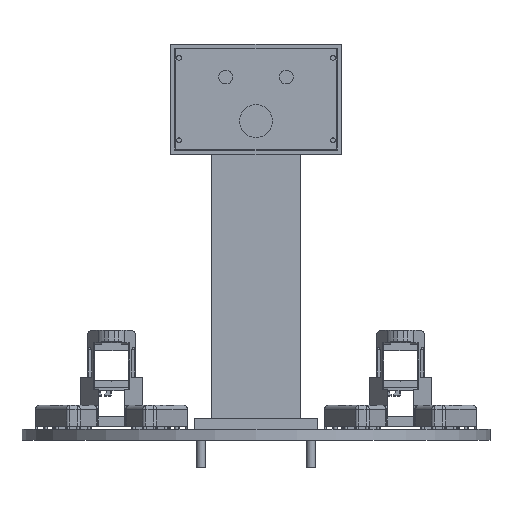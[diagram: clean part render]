
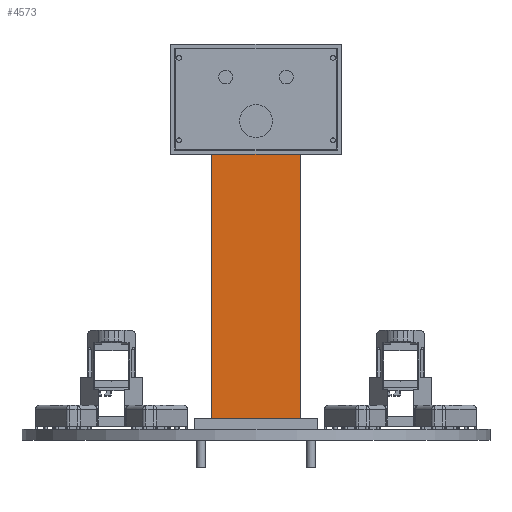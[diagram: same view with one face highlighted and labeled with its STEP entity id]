
A CAD part, front view. The second image highlights one B-rep face of the part: STEP entity #4573.
In plain terms, the highlighted planar face has unit normal (0, -1, 0).
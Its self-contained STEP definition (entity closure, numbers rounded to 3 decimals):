
#4333 = EDGE_CURVE('',#4334,#4336,#4338,.T.);
#4334 = VERTEX_POINT('',#4335);
#4335 = CARTESIAN_POINT('',(-32.,35.,86.));
#4336 = VERTEX_POINT('',#4337);
#4337 = CARTESIAN_POINT('',(-32.,35.,278.));
#4338 = SURFACE_CURVE('',#4339,(#4343,#4355),.PCURVE_S1.);
#4339 = LINE('',#4340,#4341);
#4340 = CARTESIAN_POINT('',(-32.,35.,86.));
#4341 = VECTOR('',#4342,1.);
#4342 = DIRECTION('',(0.,0.,1.));
#4343 = PCURVE('',#4344,#4349);
#4344 = PLANE('',#4345);
#4345 = AXIS2_PLACEMENT_3D('',#4346,#4347,#4348);
#4346 = CARTESIAN_POINT('',(-32.,35.,86.));
#4347 = DIRECTION('',(1.,0.,0.));
#4348 = DIRECTION('',(0.,0.,1.));
#4349 = DEFINITIONAL_REPRESENTATION('',(#4350),#4354);
#4350 = LINE('',#4351,#4352);
#4351 = CARTESIAN_POINT('',(0.,0.));
#4352 = VECTOR('',#4353,1.);
#4353 = DIRECTION('',(1.,0.));
#4354 = ( GEOMETRIC_REPRESENTATION_CONTEXT(2) 
PARAMETRIC_REPRESENTATION_CONTEXT() REPRESENTATION_CONTEXT('2D SPACE',''
  ) );
#4355 = PCURVE('',#4356,#4361);
#4356 = PLANE('',#4357);
#4357 = AXIS2_PLACEMENT_3D('',#4358,#4359,#4360);
#4358 = CARTESIAN_POINT('',(-32.,35.,86.));
#4359 = DIRECTION('',(0.,1.,0.));
#4360 = DIRECTION('',(0.,0.,1.));
#4361 = DEFINITIONAL_REPRESENTATION('',(#4362),#4366);
#4362 = LINE('',#4363,#4364);
#4363 = CARTESIAN_POINT('',(0.,0.));
#4364 = VECTOR('',#4365,1.);
#4365 = DIRECTION('',(1.,0.));
#4366 = ( GEOMETRIC_REPRESENTATION_CONTEXT(2) 
PARAMETRIC_REPRESENTATION_CONTEXT() REPRESENTATION_CONTEXT('2D SPACE',''
  ) );
#4384 = PLANE('',#4385);
#4385 = AXIS2_PLACEMENT_3D('',#4386,#4387,#4388);
#4386 = CARTESIAN_POINT('',(-32.,35.,86.));
#4387 = DIRECTION('',(0.,0.,1.));
#4388 = DIRECTION('',(1.,0.,0.));
#4438 = PLANE('',#4439);
#4439 = AXIS2_PLACEMENT_3D('',#4440,#4441,#4442);
#4440 = CARTESIAN_POINT('',(-32.,35.,278.));
#4441 = DIRECTION('',(0.,0.,1.));
#4442 = DIRECTION('',(1.,0.,0.));
#4573 = ADVANCED_FACE('',(#4574),#4356,.F.);
#4574 = FACE_BOUND('',#4575,.F.);
#4575 = EDGE_LOOP('',(#4576,#4599,#4600,#4623));
#4576 = ORIENTED_EDGE('',*,*,#4577,.F.);
#4577 = EDGE_CURVE('',#4334,#4578,#4580,.T.);
#4578 = VERTEX_POINT('',#4579);
#4579 = CARTESIAN_POINT('',(32.,35.,86.));
#4580 = SURFACE_CURVE('',#4581,(#4585,#4592),.PCURVE_S1.);
#4581 = LINE('',#4582,#4583);
#4582 = CARTESIAN_POINT('',(-32.,35.,86.));
#4583 = VECTOR('',#4584,1.);
#4584 = DIRECTION('',(1.,0.,0.));
#4585 = PCURVE('',#4356,#4586);
#4586 = DEFINITIONAL_REPRESENTATION('',(#4587),#4591);
#4587 = LINE('',#4588,#4589);
#4588 = CARTESIAN_POINT('',(0.,0.));
#4589 = VECTOR('',#4590,1.);
#4590 = DIRECTION('',(0.,1.));
#4591 = ( GEOMETRIC_REPRESENTATION_CONTEXT(2) 
PARAMETRIC_REPRESENTATION_CONTEXT() REPRESENTATION_CONTEXT('2D SPACE',''
  ) );
#4592 = PCURVE('',#4384,#4593);
#4593 = DEFINITIONAL_REPRESENTATION('',(#4594),#4598);
#4594 = LINE('',#4595,#4596);
#4595 = CARTESIAN_POINT('',(0.,0.));
#4596 = VECTOR('',#4597,1.);
#4597 = DIRECTION('',(1.,0.));
#4598 = ( GEOMETRIC_REPRESENTATION_CONTEXT(2) 
PARAMETRIC_REPRESENTATION_CONTEXT() REPRESENTATION_CONTEXT('2D SPACE',''
  ) );
#4599 = ORIENTED_EDGE('',*,*,#4333,.T.);
#4600 = ORIENTED_EDGE('',*,*,#4601,.T.);
#4601 = EDGE_CURVE('',#4336,#4602,#4604,.T.);
#4602 = VERTEX_POINT('',#4603);
#4603 = CARTESIAN_POINT('',(32.,35.,278.));
#4604 = SURFACE_CURVE('',#4605,(#4609,#4616),.PCURVE_S1.);
#4605 = LINE('',#4606,#4607);
#4606 = CARTESIAN_POINT('',(-32.,35.,278.));
#4607 = VECTOR('',#4608,1.);
#4608 = DIRECTION('',(1.,0.,0.));
#4609 = PCURVE('',#4356,#4610);
#4610 = DEFINITIONAL_REPRESENTATION('',(#4611),#4615);
#4611 = LINE('',#4612,#4613);
#4612 = CARTESIAN_POINT('',(192.,0.));
#4613 = VECTOR('',#4614,1.);
#4614 = DIRECTION('',(0.,1.));
#4615 = ( GEOMETRIC_REPRESENTATION_CONTEXT(2) 
PARAMETRIC_REPRESENTATION_CONTEXT() REPRESENTATION_CONTEXT('2D SPACE',''
  ) );
#4616 = PCURVE('',#4438,#4617);
#4617 = DEFINITIONAL_REPRESENTATION('',(#4618),#4622);
#4618 = LINE('',#4619,#4620);
#4619 = CARTESIAN_POINT('',(0.,0.));
#4620 = VECTOR('',#4621,1.);
#4621 = DIRECTION('',(1.,0.));
#4622 = ( GEOMETRIC_REPRESENTATION_CONTEXT(2) 
PARAMETRIC_REPRESENTATION_CONTEXT() REPRESENTATION_CONTEXT('2D SPACE',''
  ) );
#4623 = ORIENTED_EDGE('',*,*,#4624,.F.);
#4624 = EDGE_CURVE('',#4578,#4602,#4625,.T.);
#4625 = SURFACE_CURVE('',#4626,(#4630,#4637),.PCURVE_S1.);
#4626 = LINE('',#4627,#4628);
#4627 = CARTESIAN_POINT('',(32.,35.,86.));
#4628 = VECTOR('',#4629,1.);
#4629 = DIRECTION('',(0.,0.,1.));
#4630 = PCURVE('',#4356,#4631);
#4631 = DEFINITIONAL_REPRESENTATION('',(#4632),#4636);
#4632 = LINE('',#4633,#4634);
#4633 = CARTESIAN_POINT('',(0.,64.));
#4634 = VECTOR('',#4635,1.);
#4635 = DIRECTION('',(1.,0.));
#4636 = ( GEOMETRIC_REPRESENTATION_CONTEXT(2) 
PARAMETRIC_REPRESENTATION_CONTEXT() REPRESENTATION_CONTEXT('2D SPACE',''
  ) );
#4637 = PCURVE('',#4638,#4643);
#4638 = PLANE('',#4639);
#4639 = AXIS2_PLACEMENT_3D('',#4640,#4641,#4642);
#4640 = CARTESIAN_POINT('',(32.,35.,86.));
#4641 = DIRECTION('',(1.,0.,0.));
#4642 = DIRECTION('',(0.,0.,1.));
#4643 = DEFINITIONAL_REPRESENTATION('',(#4644),#4648);
#4644 = LINE('',#4645,#4646);
#4645 = CARTESIAN_POINT('',(0.,0.));
#4646 = VECTOR('',#4647,1.);
#4647 = DIRECTION('',(1.,0.));
#4648 = ( GEOMETRIC_REPRESENTATION_CONTEXT(2) 
PARAMETRIC_REPRESENTATION_CONTEXT() REPRESENTATION_CONTEXT('2D SPACE',''
  ) );
